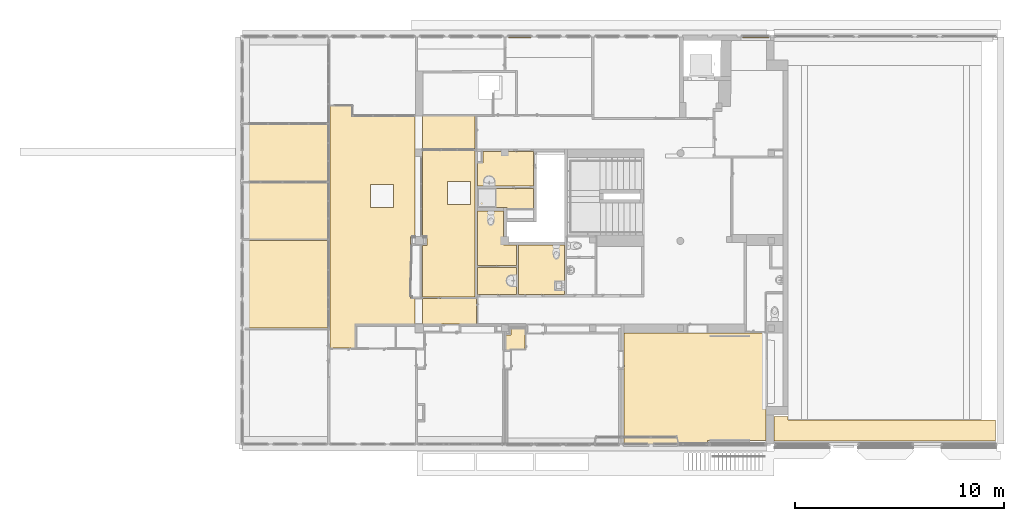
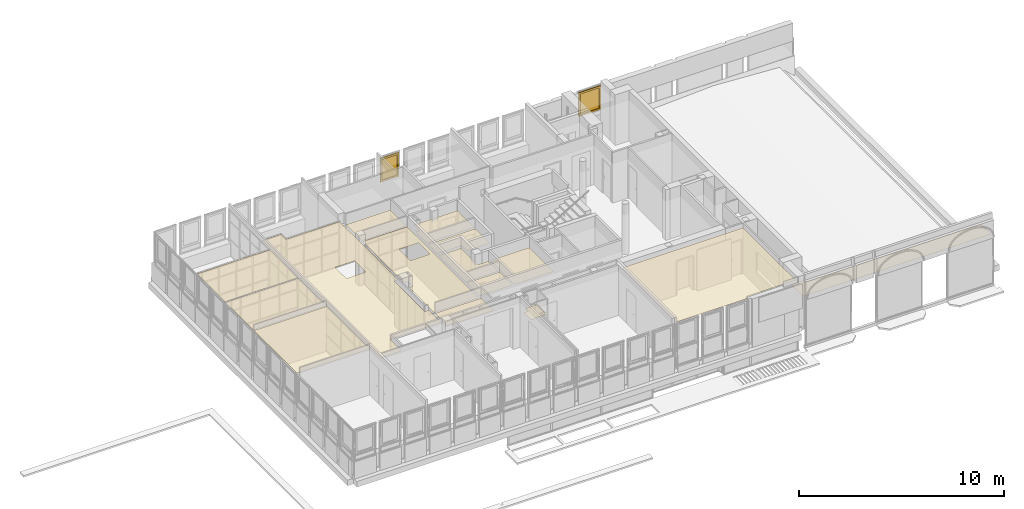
# One storey, part 93 of 97: 15 coverings, 2 windows, 2 elements without a shape of their own.
"""IFC4 building model written with IfcOpenShell, lengths in metres."""

from ifc_helpers import new_model, entity, si_unit, converted_unit, derived_unit, direction, frame, origin, place, context, subcontext, project, spatial, polygons, source, transform, mapped, material, material_list, layer, layer_set, constituent, constituent_set, type_object, type_shapes, element, aggregate, save


model = new_model("IFC4")

# Units and contexts
model_context = context("Model", 3, precision=1e-05, world=origin(), true_north=direction((6.12303176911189e-17, 1.0)))
body_context = subcontext(model_context, "Body", "Model", "MODEL_VIEW")
ifc_project = project(units=[si_unit("LENGTHUNIT", "METRE"), si_unit("AREAUNIT", "SQUARE_METRE"), si_unit("VOLUMEUNIT", "CUBIC_METRE"), converted_unit("PLANEANGLEUNIT", "DEGREE", entity("IfcRatioMeasure", 0.0174532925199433), si_unit("PLANEANGLEUNIT", "RADIAN"), dimensions=[0, 0, 0, 0, 0, 0, 0]), si_unit("MASSUNIT", "GRAM", prefix="KILO"), derived_unit("MASSDENSITYUNIT", [(si_unit("MASSUNIT", "GRAM", prefix="KILO"), 1), (si_unit("LENGTHUNIT", "METRE"), -3)]), derived_unit("MOMENTOFINERTIAUNIT", [(si_unit("LENGTHUNIT", "METRE"), 4)]), si_unit("TIMEUNIT", "SECOND"), si_unit("FREQUENCYUNIT", "HERTZ"), si_unit("THERMODYNAMICTEMPERATUREUNIT", "DEGREE_CELSIUS"), derived_unit("THERMALTRANSMITTANCEUNIT", [(si_unit("MASSUNIT", "GRAM", prefix="KILO"), 1), (si_unit("THERMODYNAMICTEMPERATUREUNIT", "KELVIN"), -1), (si_unit("TIMEUNIT", "SECOND"), -3)]), derived_unit("VOLUMETRICFLOWRATEUNIT", [(si_unit("LENGTHUNIT", "METRE"), 3), (si_unit("TIMEUNIT", "SECOND"), -1)]), si_unit("ELECTRICCURRENTUNIT", "AMPERE"), si_unit("ELECTRICVOLTAGEUNIT", "VOLT"), si_unit("POWERUNIT", "WATT"), si_unit("FORCEUNIT", "NEWTON", prefix="KILO"), si_unit("ILLUMINANCEUNIT", "LUX"), si_unit("LUMINOUSFLUXUNIT", "LUMEN"), si_unit("LUMINOUSINTENSITYUNIT", "CANDELA"), derived_unit("USERDEFINED", [(si_unit("MASSUNIT", "GRAM", prefix="KILO"), -1), (si_unit("LENGTHUNIT", "METRE"), -2), (si_unit("TIMEUNIT", "SECOND"), 3), (si_unit("LUMINOUSFLUXUNIT", "LUMEN"), 1)]), derived_unit("LINEARVELOCITYUNIT", [(si_unit("LENGTHUNIT", "METRE"), 1), (si_unit("TIMEUNIT", "SECOND"), -1)]), si_unit("PRESSUREUNIT", "PASCAL"), derived_unit("USERDEFINED", [(si_unit("LENGTHUNIT", "METRE"), -2), (si_unit("MASSUNIT", "GRAM", prefix="KILO"), 1), (si_unit("TIMEUNIT", "SECOND"), -2)]), derived_unit("LINEARFORCEUNIT", [(si_unit("MASSUNIT", "GRAM", prefix="KILO"), 1), (si_unit("LENGTHUNIT", "METRE"), 1), (si_unit("TIMEUNIT", "SECOND"), -2), (si_unit("LENGTHUNIT", "METRE"), -1)]), derived_unit("PLANARFORCEUNIT", [(si_unit("MASSUNIT", "GRAM", prefix="KILO"), 1), (si_unit("LENGTHUNIT", "METRE"), 1), (si_unit("TIMEUNIT", "SECOND"), -2), (si_unit("LENGTHUNIT", "METRE"), -2)])], contexts=[model_context])

# Site, building, storey
site_placement = place(None, origin())
site = spatial("IfcSite", under=ifc_project, at=site_placement, Name="Default", CompositionType="ELEMENT")
building_placement = place(site_placement, origin())
building = spatial("IfcBuilding", under=site, at=building_placement, Name="HOTEL CONSULAIRE BOULOGNE SUR MER", CompositionType="ELEMENT")
storey_placement = place(building_placement, frame((0.0, 0.0, 3.62152697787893)))
storey = spatial("IfcBuildingStorey", under=building, at=storey_placement, Name="Niveau 1", CompositionType="ELEMENT", Elevation=3.62152697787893)

# Curtain wall, window
curtain_wall_type = type_object("IfcCurtainWallType", Name="Mur-rideau:Simple panneau", PredefinedType="NOTDEFINED")
curtain_wall_1_placement = place(storey_placement, frame((0.0, 0.0, -3.62152697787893)))
curtain_wall_1 = element("IfcCurtainWall", 1, at=curtain_wall_1_placement, inside=storey, type_object=curtain_wall_type, Name="Mur-rideau:Simple panneau", ObjectType="Mur-rideau:Simple panneau", PredefinedType="NOTDEFINED")
ifc_material_1 = material(Name="PVC - Blanc", Category="Plastique")
ifc_constituent_1 = constituent(ifc_material_1, Name="PVC - Blanc", Category="Matériaux")
ifc_material_2 = material(Name="Fenêtre - Vitrage", Category="Verre")
ifc_constituent_2 = constituent(ifc_material_2, Name="Fenêtre - Vitrage", Category="Matériaux")
ifc_constituent_set_1 = constituent_set(constituents=[ifc_constituent_1, ifc_constituent_2], Name="MaterialConstituentSet")
ifc_material_list_1 = material_list([ifc_material_1, ifc_material_1])
window_type_1 = type_object("IfcWindowType", Name="MR 1 Vantail:MR 1 Vantail", PartitioningType="NOTDEFINED", PredefinedType="WINDOW", material=ifc_material_list_1)
shared_shape_1 = source(origin(), body_context, "Body", "Tessellation", [
    polygons([(-0.459321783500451, -0.0492408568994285, 0.472033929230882), (-0.448029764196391, -0.0492408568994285, 0.472033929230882), (-0.446641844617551, -0.0492408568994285, 0.470646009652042), (-0.446641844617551, -0.0492408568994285, 0.459332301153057), (-0.448008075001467, -0.0492408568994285, 0.457966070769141), (-0.459343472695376, -0.0492408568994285, 0.457966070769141), (-0.460709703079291, -0.0492408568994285, 0.459332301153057), (-0.460709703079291, -0.0492408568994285, 0.470646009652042), (-0.460709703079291, -0.0615795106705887, 0.470646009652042), (-0.459321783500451, -0.0621544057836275, 0.472033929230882), (-0.460709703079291, -0.0568932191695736, 0.459332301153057), (-0.460709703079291, -0.063573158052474, 0.452652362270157), (-0.460709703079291, -0.0635731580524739, 0.370000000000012), (-0.460709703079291, -0.0748868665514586, 0.370000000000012), (-0.460709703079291, -0.0748868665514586, 0.457338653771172), (-0.459343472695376, -0.0563273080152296, 0.457966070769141), (-0.448008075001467, -0.0563273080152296, 0.457966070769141), (-0.446641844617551, -0.0568932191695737, 0.459332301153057), (-0.446641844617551, -0.0615795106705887, 0.470646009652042), (-0.446641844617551, -0.0748868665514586, 0.457338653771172), (-0.446641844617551, -0.0748868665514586, 0.370000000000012), (-0.446641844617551, -0.0635731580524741, 0.370000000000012), (-0.446641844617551, -0.0635731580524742, 0.452652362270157), (-0.448029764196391, -0.0621544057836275, 0.472033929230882), (-0.459321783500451, -0.0762747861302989, 0.457913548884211), (-0.459343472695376, -0.0622069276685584, 0.452086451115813), (-0.448008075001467, -0.0622069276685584, 0.452086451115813), (-0.448029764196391, -0.0762747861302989, 0.457913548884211), (-0.459321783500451, -0.0762747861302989, 0.370000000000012), (-0.459343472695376, -0.0622069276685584, 0.370000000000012), (-0.448008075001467, -0.0622069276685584, 0.370000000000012), (-0.448029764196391, -0.0762747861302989, 0.370000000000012)], [[[6, 7, 8, 1, 2, 3, 4, 5]], [[30, 26, 27, 31]], [[9, 10, 1, 8]], [[11, 12, 13, 14, 15, 9, 8, 7]], [[16, 11, 7, 6]], [[16, 6, 5, 17]], [[31, 22, 21, 32, 29, 14, 13, 30]], [[17, 5, 4, 18]], [[3, 19, 20, 21, 22, 23, 18, 4]], [[19, 3, 2, 24]], [[24, 2, 1, 10]], [[15, 25, 10, 9]], [[26, 12, 11, 16]], [[27, 26, 16, 17]], [[27, 17, 18, 23]], [[20, 19, 24, 28]], [[28, 24, 10, 25]], [[29, 25, 15, 14]], [[13, 12, 26, 30]], [[22, 31, 27, 23]], [[32, 21, 20, 28]], [[32, 28, 25, 29]]], closed=True),
    polygons([(-0.460675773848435, -0.0432408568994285, 0.490000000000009), (-0.44667577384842, -0.0432408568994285, 0.490000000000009), (-0.44167577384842, -0.0432408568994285, 0.48500000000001), (-0.44167577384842, -0.0432408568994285, 0.414999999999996), (-0.446675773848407, -0.0432408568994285, 0.410000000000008), (-0.460675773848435, -0.0432408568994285, 0.410000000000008), (-0.465675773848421, -0.0432408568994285, 0.414999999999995), (-0.465675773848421, -0.0432408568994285, 0.48500000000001), (-0.460675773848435, -0.0492408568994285, 0.490000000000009), (-0.465675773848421, -0.0492408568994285, 0.48500000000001), (-0.465675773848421, -0.0492408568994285, 0.414999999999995), (-0.460675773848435, -0.0492408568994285, 0.410000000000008), (-0.446675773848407, -0.0492408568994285, 0.410000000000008), (-0.44167577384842, -0.0492408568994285, 0.414999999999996), (-0.44167577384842, -0.0492408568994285, 0.48500000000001), (-0.44667577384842, -0.0492408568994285, 0.490000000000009)], [[[2, 3, 4, 5, 6, 7, 8, 1]], [[13, 14, 15, 16, 9, 10, 11, 12]], [[9, 1, 8, 10]], [[10, 8, 7, 11]], [[11, 7, 6, 12]], [[12, 6, 5, 13]], [[13, 5, 4, 14]], [[15, 14, 4, 3]], [[15, 3, 2, 16]], [[16, 2, 1, 9]]], closed=True),
    polygons([(0.428675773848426, -0.0192408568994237, 1.32586048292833), (-0.428675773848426, -0.0192408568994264, 1.32586048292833), (-0.428675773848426, -0.0192408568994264, 0.1), (0.428675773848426, -0.0192408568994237, 0.1), (0.428675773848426, -0.00724085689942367, 1.32586048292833), (0.428675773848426, -0.00724085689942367, 0.1), (-0.428675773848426, -0.00724085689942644, 0.1), (-0.428675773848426, -0.00724085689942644, 1.32586048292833)], [[[4, 1, 2, 3]], [[7, 8, 5, 6]], [[2, 1, 5, 8]], [[3, 2, 8, 7]], [[4, 3, 7, 6]], [[1, 4, 6, 5]]], closed=True),
    polygons([(-0.478675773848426, 0.0167591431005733, 1.37586048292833), (-0.478675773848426, -0.043240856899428, 1.37586048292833), (0.478675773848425, -0.043240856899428, 1.37586048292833), (0.478675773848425, 0.0167591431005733, 1.37586048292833), (-0.428675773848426, -0.043240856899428, 1.32586048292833), (-0.428675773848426, 0.0167591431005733, 1.32586048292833), (0.428675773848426, 0.0167591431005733, 1.32586048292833), (0.428675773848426, -0.043240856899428, 1.32586048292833), (0.478675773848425, -0.043240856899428, 0.0500000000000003), (0.478675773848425, 0.0167591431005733, 0.0500000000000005), (0.428675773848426, 0.0167591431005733, 0.1), (0.428675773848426, -0.043240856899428, 0.1), (-0.478675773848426, -0.043240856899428, 0.0500000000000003), (-0.478675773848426, 0.0167591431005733, 0.0500000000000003), (-0.428675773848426, 0.0167591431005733, 0.1), (-0.428675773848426, -0.043240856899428, 0.1)], [[[1, 2, 3, 4]], [[12, 11, 15, 16]], [[5, 6, 7, 8]], [[10, 9, 13, 14]], [[4, 3, 9, 10]], [[16, 15, 6, 5]], [[8, 7, 11, 12]], [[14, 13, 2, 1]], [[9, 3, 2, 13], [16, 5, 8, 12]], [[14, 1, 4, 10], [11, 7, 6, 15]]], closed=True),
    polygons([(-0.468675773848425, 0.016759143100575, 1.36586048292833), (-0.468675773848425, 0.0267591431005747, 1.36586048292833), (0.468675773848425, 0.0267591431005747, 1.36586048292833), (0.468675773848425, 0.016759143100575, 1.36586048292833), (-0.478675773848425, -0.0432408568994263, 1.37586048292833), (-0.478675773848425, 0.016759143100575, 1.37586048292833), (0.478675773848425, 0.016759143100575, 1.37586048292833), (0.478675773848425, -0.0432408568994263, 1.37586048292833), (-0.528675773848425, 0.0267591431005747, 1.42586048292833), (-0.528675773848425, -0.0432408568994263, 1.42586048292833), (0.528675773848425, -0.0432408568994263, 1.42586048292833), (0.528675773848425, 0.0267591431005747, 1.42586048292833), (0.468675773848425, 0.0267591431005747, 0.0600000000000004), (0.468675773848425, 0.016759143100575, 0.0600000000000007), (0.478675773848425, 0.016759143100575, 0.0500000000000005), (0.478675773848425, -0.0432408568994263, 0.0500000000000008), (0.528675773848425, -0.0432408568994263, 5.41433564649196e-16), (0.528675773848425, 0.0267591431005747, 5.41433564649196e-16), (-0.468675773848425, 0.0267591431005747, 0.0600000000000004), (-0.468675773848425, 0.016759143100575, 0.0600000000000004), (-0.478675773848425, 0.016759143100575, 0.0500000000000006), (-0.478675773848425, -0.0432408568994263, 0.0500000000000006), (-0.528675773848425, -0.0432408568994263, 5.41433564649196e-16), (-0.528675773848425, 0.0267591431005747, 5.41433564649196e-16)], [[[1, 2, 3, 4]], [[5, 6, 7, 8]], [[18, 17, 23, 24]], [[9, 10, 11, 12]], [[14, 13, 19, 20]], [[16, 15, 21, 22]], [[4, 3, 13, 14]], [[8, 7, 15, 16]], [[24, 23, 10, 9]], [[12, 11, 17, 18]], [[20, 19, 2, 1]], [[22, 21, 6, 5]], [[24, 9, 12, 18], [13, 3, 2, 19]], [[15, 7, 6, 21], [20, 1, 4, 14]], [[17, 11, 10, 23], [22, 5, 8, 16]]], closed=True),
])
type_shapes(window_type_1, [shared_shape_1])
window_1_placement = place(curtain_wall_1_placement, frame((-0.521097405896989, -10.0746323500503, 4.79613951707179)))
window_1 = element("IfcWindow", 2, at=window_1_placement, type_object=window_type_1, material=ifc_constituent_set_1, Name="MR 1 Vantail:MR 1 Vantail", ObjectType="MR 1 Vantail:MR 1 Vantail", OverallHeight=1.42586048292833, OverallWidth=1.05735154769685, PartitioningType="NOTDEFINED", PredefinedType="WINDOW", context=body_context, shape_type="MappedRepresentation", body=[
    mapped(shared_shape_1, transform((0.0, 0.0, 0.0), scale=1.0)),
])
aggregate(curtain_wall_1, [window_1])

curtain_wall_2_placement = place(storey_placement, frame((0.0, 0.0, -3.62152697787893)))
curtain_wall_2 = element("IfcCurtainWall", 3, at=curtain_wall_2_placement, inside=storey, type_object=curtain_wall_type, Name="Mur-rideau:Simple panneau", ObjectType="Mur-rideau:Simple panneau", PredefinedType="NOTDEFINED")
ifc_constituent_3 = constituent(ifc_material_1, Name="PVC - Blanc", Category="Matériaux")
ifc_constituent_4 = constituent(ifc_material_2, Name="Fenêtre - Vitrage", Category="Matériaux")
ifc_constituent_set_2 = constituent_set(constituents=[ifc_constituent_3, ifc_constituent_4], Name="MaterialConstituentSet")
ifc_material_list_2 = material_list([ifc_material_1, ifc_material_1])
window_type_2 = type_object("IfcWindowType", Name="MR 1 Vantail:MR 1 Vantail", PartitioningType="NOTDEFINED", PredefinedType="WINDOW", material=ifc_material_list_2)
shared_shape_2 = source(origin(), body_context, "Body", "Tessellation", [
    polygons([(-0.55859576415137, -0.0492408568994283, 0.472033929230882), (-0.54730374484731, -0.0492408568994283, 0.472033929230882), (-0.54591582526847, -0.0492408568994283, 0.470646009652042), (-0.54591582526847, -0.0492408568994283, 0.459332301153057), (-0.547282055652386, -0.0492408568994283, 0.457966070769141), (-0.558617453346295, -0.0492408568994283, 0.457966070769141), (-0.55998368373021, -0.0492408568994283, 0.459332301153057), (-0.55998368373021, -0.0492408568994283, 0.470646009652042), (-0.55998368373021, -0.0615795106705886, 0.470646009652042), (-0.55859576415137, -0.0621544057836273, 0.472033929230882), (-0.55998368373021, -0.0568932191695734, 0.459332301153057), (-0.55998368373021, -0.0635731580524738, 0.452652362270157), (-0.55998368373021, -0.0635731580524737, 0.370000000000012), (-0.55998368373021, -0.0748868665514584, 0.370000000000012), (-0.55998368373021, -0.0748868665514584, 0.457338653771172), (-0.558617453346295, -0.0563273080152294, 0.457966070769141), (-0.547282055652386, -0.0563273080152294, 0.457966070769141), (-0.54591582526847, -0.0568932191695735, 0.459332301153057), (-0.54591582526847, -0.0615795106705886, 0.470646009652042), (-0.54591582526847, -0.0748868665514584, 0.457338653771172), (-0.54591582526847, -0.0748868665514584, 0.370000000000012), (-0.54591582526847, -0.063573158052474, 0.370000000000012), (-0.54591582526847, -0.0635731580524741, 0.452652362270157), (-0.54730374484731, -0.0621544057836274, 0.472033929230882), (-0.55859576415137, -0.0762747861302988, 0.457913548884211), (-0.558617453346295, -0.0622069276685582, 0.452086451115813), (-0.547282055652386, -0.0622069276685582, 0.452086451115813), (-0.54730374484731, -0.0762747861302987, 0.457913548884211), (-0.55859576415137, -0.0762747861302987, 0.370000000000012), (-0.558617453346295, -0.0622069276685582, 0.370000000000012), (-0.547282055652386, -0.0622069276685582, 0.370000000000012), (-0.54730374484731, -0.0762747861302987, 0.370000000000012)], [[[6, 7, 8, 1, 2, 3, 4, 5]], [[30, 26, 27, 31]], [[9, 10, 1, 8]], [[11, 12, 13, 14, 15, 9, 8, 7]], [[16, 11, 7, 6]], [[16, 6, 5, 17]], [[31, 22, 21, 32, 29, 14, 13, 30]], [[17, 5, 4, 18]], [[3, 19, 20, 21, 22, 23, 18, 4]], [[19, 3, 2, 24]], [[24, 2, 1, 10]], [[15, 25, 10, 9]], [[26, 12, 11, 16]], [[27, 26, 16, 17]], [[27, 17, 18, 23]], [[20, 19, 24, 28]], [[28, 24, 10, 25]], [[29, 25, 15, 14]], [[13, 12, 26, 30]], [[22, 31, 27, 23]], [[32, 21, 20, 28]], [[32, 28, 25, 29]]], closed=True),
    polygons([(-0.559949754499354, -0.0432408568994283, 0.490000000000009), (-0.545949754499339, -0.0432408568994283, 0.490000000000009), (-0.540949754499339, -0.0432408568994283, 0.48500000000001), (-0.540949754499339, -0.0432408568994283, 0.414999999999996), (-0.545949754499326, -0.0432408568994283, 0.410000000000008), (-0.559949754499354, -0.0432408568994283, 0.410000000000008), (-0.56494975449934, -0.0432408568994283, 0.414999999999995), (-0.56494975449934, -0.0432408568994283, 0.48500000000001), (-0.559949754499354, -0.0492408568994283, 0.490000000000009), (-0.56494975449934, -0.0492408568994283, 0.48500000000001), (-0.56494975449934, -0.0492408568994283, 0.414999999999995), (-0.559949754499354, -0.0492408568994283, 0.410000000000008), (-0.545949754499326, -0.0492408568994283, 0.410000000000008), (-0.540949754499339, -0.0492408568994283, 0.414999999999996), (-0.540949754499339, -0.0492408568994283, 0.48500000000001), (-0.545949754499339, -0.0492408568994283, 0.490000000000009)], [[[2, 3, 4, 5, 6, 7, 8, 1]], [[13, 14, 15, 16, 9, 10, 11, 12]], [[9, 1, 8, 10]], [[10, 8, 7, 11]], [[11, 7, 6, 12]], [[12, 6, 5, 13]], [[13, 5, 4, 14]], [[15, 14, 4, 3]], [[15, 3, 2, 16]], [[16, 2, 1, 9]]], closed=True),
    polygons([(0.527949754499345, -0.0192408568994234, 1.32586048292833), (-0.527949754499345, -0.0192408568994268, 1.32586048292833), (-0.527949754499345, -0.0192408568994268, 0.1), (0.527949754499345, -0.0192408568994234, 0.1), (0.527949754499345, -0.00724085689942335, 1.32586048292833), (0.527949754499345, -0.00724085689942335, 0.1), (-0.527949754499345, -0.00724085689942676, 0.1), (-0.527949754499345, -0.00724085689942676, 1.32586048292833)], [[[4, 1, 2, 3]], [[7, 8, 5, 6]], [[2, 1, 5, 8]], [[3, 2, 8, 7]], [[4, 3, 7, 6]], [[1, 4, 6, 5]]], closed=True),
    polygons([(-0.577949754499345, 0.0167591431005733, 1.37586048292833), (-0.577949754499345, -0.043240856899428, 1.37586048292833), (0.577949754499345, -0.043240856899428, 1.37586048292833), (0.577949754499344, 0.0167591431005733, 1.37586048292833), (-0.527949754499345, -0.043240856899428, 1.32586048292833), (-0.527949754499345, 0.0167591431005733, 1.32586048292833), (0.527949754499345, 0.0167591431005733, 1.32586048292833), (0.527949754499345, -0.043240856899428, 1.32586048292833), (0.577949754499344, -0.043240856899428, 0.0500000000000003), (0.577949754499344, 0.0167591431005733, 0.0500000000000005), (0.527949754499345, 0.0167591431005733, 0.1), (0.527949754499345, -0.043240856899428, 0.1), (-0.577949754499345, -0.043240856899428, 0.0500000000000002), (-0.577949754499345, 0.0167591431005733, 0.0500000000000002), (-0.527949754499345, 0.0167591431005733, 0.1), (-0.527949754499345, -0.043240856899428, 0.1)], [[[1, 2, 3, 4]], [[12, 11, 15, 16]], [[5, 6, 7, 8]], [[10, 9, 13, 14]], [[4, 3, 9, 10]], [[16, 15, 6, 5]], [[8, 7, 11, 12]], [[14, 13, 2, 1]], [[9, 3, 2, 13], [16, 5, 8, 12]], [[14, 1, 4, 10], [11, 7, 6, 15]]], closed=True),
    polygons([(-0.567949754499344, 0.016759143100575, 1.36586048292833), (-0.567949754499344, 0.0267591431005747, 1.36586048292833), (0.567949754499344, 0.0267591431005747, 1.36586048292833), (0.567949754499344, 0.016759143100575, 1.36586048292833), (-0.577949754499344, -0.0432408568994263, 1.37586048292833), (-0.577949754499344, 0.016759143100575, 1.37586048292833), (0.577949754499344, 0.016759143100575, 1.37586048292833), (0.577949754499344, -0.0432408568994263, 1.37586048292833), (-0.627949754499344, 0.0267591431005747, 1.42586048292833), (-0.627949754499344, -0.0432408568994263, 1.42586048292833), (0.627949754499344, -0.0432408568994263, 1.42586048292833), (0.627949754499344, 0.0267591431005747, 1.42586048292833), (0.567949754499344, 0.0267591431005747, 0.0600000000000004), (0.567949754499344, 0.016759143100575, 0.0600000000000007), (0.577949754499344, 0.016759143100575, 0.0500000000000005), (0.577949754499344, -0.0432408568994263, 0.0500000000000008), (0.627949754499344, -0.0432408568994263, 5.41433564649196e-16), (0.627949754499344, 0.0267591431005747, 5.41433564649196e-16), (-0.567949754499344, 0.0267591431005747, 0.0600000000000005), (-0.567949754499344, 0.016759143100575, 0.0600000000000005), (-0.577949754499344, 0.016759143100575, 0.0500000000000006), (-0.577949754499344, -0.0432408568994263, 0.0500000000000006), (-0.627949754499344, -0.0432408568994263, 5.41433564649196e-16), (-0.627949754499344, 0.0267591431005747, 5.41433564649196e-16)], [[[1, 2, 3, 4]], [[5, 6, 7, 8]], [[18, 17, 23, 24]], [[9, 10, 11, 12]], [[14, 13, 19, 20]], [[16, 15, 21, 22]], [[4, 3, 13, 14]], [[8, 7, 15, 16]], [[24, 23, 10, 9]], [[12, 11, 17, 18]], [[20, 19, 2, 1]], [[22, 21, 6, 5]], [[24, 9, 12, 18], [13, 3, 2, 19]], [[15, 7, 6, 21], [20, 1, 4, 14]], [[17, 11, 10, 23], [22, 5, 8, 16]]], closed=True),
])
type_shapes(window_type_2, [shared_shape_2])
window_2_placement = place(curtain_wall_2_placement, frame((10.7755281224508, -10.0746323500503, 4.79613951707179)))
window_2 = element("IfcWindow", 4, at=window_2_placement, type_object=window_type_2, material=ifc_constituent_set_2, Name="MR 1 Vantail:MR 1 Vantail", ObjectType="MR 1 Vantail:MR 1 Vantail", OverallHeight=1.42586048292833, OverallWidth=1.25589950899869, PartitioningType="NOTDEFINED", PredefinedType="WINDOW", context=body_context, shape_type="MappedRepresentation", body=[
    mapped(shared_shape_2, transform((0.0, 0.0, 0.0), scale=1.0)),
])
aggregate(curtain_wall_2, [window_2])

# Coverings
ifc_material_3 = material(Name="Faux-plafond - Trame 600 x 600", Category="Divers")
ifc_layer = layer(ifc_material_3, 0.0, Name="Faux-plafond - Trame 600 x 600", Category="Divers")
ifc_layer_set = layer_set([ifc_layer], Name="Plafond de base:Plafond 600 mm x 1200 mm")
covering_type_1 = type_object("IfcCoveringType", Name="Plafond de base:Plafond 600 mm x 1200 mm", PredefinedType="CEILING")
covering_1_placement = place(storey_placement, frame((-13.7870998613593, -24.0092596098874, 2.6751)))
element("IfcCovering", 5, at=covering_1_placement, inside=storey, type_object=covering_type_1, material=ifc_layer_set, Name="Plafond de base:Plafond 600 mm x 1200 mm", ObjectType="Plafond de base:Plafond 600 mm x 1200 mm", PredefinedType="CEILING", context=body_context, shape_type="Tessellation", body=[
    polygons([(4.33146851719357e-15, 2.89780970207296, 0.0), (2.16573425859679e-15, 1.49780970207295, 0.0), (0.0, 1.29944055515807e-14, 0.0), (4.13747521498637, 0.0, 0.0), (4.13747521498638, 4.20192499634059, 0.0), (6.49720277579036e-15, 4.2019249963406, 0.0)], [[[6, 1, 2, 3, 4, 5]]], closed=True),
])
covering_type_2 = type_object("IfcCoveringType", Name="Plafond de base:Plafond 600 mm x 1200 mm", PredefinedType="CEILING")
covering_2_placement = place(storey_placement, frame((-13.7870998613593, -19.7373346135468, 2.6599)))
element("IfcCovering", 6, at=covering_2_placement, inside=storey, type_object=covering_type_2, material=ifc_layer_set, Name="Plafond de base:Plafond 600 mm x 1200 mm", ObjectType="Plafond de base:Plafond 600 mm x 1200 mm", PredefinedType="CEILING", context=body_context, shape_type="Tessellation", body=[
    polygons([(4.13747521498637, 0.0, 0.0), (4.13747521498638, 2.73548875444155, 0.0), (4.33146851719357e-15, 2.73548875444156, 0.0), (2.16573425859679e-15, 1.22588470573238, 0.0), (0.0, 1.73258740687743e-14, 0.0)], [[[4, 5, 1, 2, 3]]], closed=True),
])
covering_type_3 = type_object("IfcCoveringType", Name="Plafond de base:Plafond 600 mm x 1200 mm", PredefinedType="CEILING")
covering_3_placement = place(storey_placement, frame((-2.53052868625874, -18.7546212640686, 2.3636)))
element("IfcCovering", 7, at=covering_3_placement, inside=storey, type_object=covering_type_3, material=ifc_layer_set, Name="Plafond de base:Plafond 600 mm x 1200 mm", ObjectType="Plafond de base:Plafond 600 mm x 1200 mm", PredefinedType="CEILING", context=body_context, shape_type="Tessellation", body=[
    polygons([(2.67216374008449, 1.43683564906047, 0.0), (1.62430069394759e-15, 1.43683564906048, 0.0), (0.0, 0.51163259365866, 0.0), (1.39516374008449, 0.511632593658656, 0.0), (1.39516374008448, 4.33146851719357e-15, 0.0), (2.67216374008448, 0.0, 0.0)], [[[2, 3, 4, 5, 6, 1]]], closed=True),
])
covering_type_4 = type_object("IfcCoveringType", Name="Plafond de base:Plafond 600 mm x 1200 mm", PredefinedType="CEILING")
covering_4_placement = place(storey_placement, frame((-2.53052868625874, -21.0178560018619, 2.357)))
element("IfcCovering", 8, at=covering_4_placement, inside=storey, type_object=covering_type_4, material=ifc_layer_set, Name="Plafond de base:Plafond 600 mm x 1200 mm", ObjectType="Plafond de base:Plafond 600 mm x 1200 mm", PredefinedType="CEILING", context=body_context, shape_type="Tessellation", body=[
    polygons([(1.24516374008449, 0.988022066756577, 0.0), (1.24516374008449, 2.61486733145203, 0.0), (3.79003495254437e-15, 2.61486733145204, 0.0), (0.0, 8.66293703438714e-15, 0.0), (1.85954867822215, 0.0, 0.0), (1.85954867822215, 0.988022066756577, 0.0)], [[[3, 4, 5, 6, 1, 2]]], closed=True),
])
covering_type_5 = type_object("IfcCoveringType", Name="Plafond de base:Plafond 600 mm x 1200 mm", PredefinedType="CEILING")
covering_5_placement = place(storey_placement, frame((-2.53052868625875, -22.3950276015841, 2.364)))
element("IfcCovering", 9, at=covering_5_placement, inside=storey, type_object=covering_type_5, material=ifc_layer_set, Name="Plafond de base:Plafond 600 mm x 1200 mm", ObjectType="Plafond de base:Plafond 600 mm x 1200 mm", PredefinedType="CEILING", context=body_context, shape_type="Tessellation", body=[
    polygons([(1.85954867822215, 1.28717159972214, 0.0), (2.70716782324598e-15, 1.28717159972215, 0.0), (0.0, 4.33146851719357e-15, 0.0), (1.85954867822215, 0.0, 0.0)], [[[2, 3, 4, 1]]], closed=True),
])
covering_type_6 = type_object("IfcCoveringType", Name="Plafond de base:Plafond 600 mm x 1200 mm", PredefinedType="CEILING")
covering_6_placement = place(storey_placement, frame((-0.570980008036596, -22.3950276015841, 2.3625)))
element("IfcCovering", 10, at=covering_6_placement, inside=storey, type_object=covering_type_6, material=ifc_layer_set, Name="Plafond de base:Plafond 600 mm x 1200 mm", ObjectType="Plafond de base:Plafond 600 mm x 1200 mm", PredefinedType="CEILING", context=body_context, shape_type="Tessellation", body=[
    polygons([(3.79003495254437e-15, 2.36519366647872, 0.0), (0.0, 4.33146851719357e-15, 0.0), (2.19845132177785, 0.0, 0.0), (2.19845132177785, 2.36519366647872, 0.0)], [[[1, 2, 3, 4]]], closed=True),
])
covering_type_7 = type_object("IfcCoveringType", Name="Plafond de base:Plafond 600 mm x 1200 mm", PredefinedType="CEILING")
covering_7_placement = place(storey_placement, frame((4.45858002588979, -29.5640671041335, 2.7255)))
element("IfcCovering", 11, at=covering_7_placement, inside=storey, type_object=covering_type_7, material=ifc_layer_set, Name="Plafond de base:Plafond 600 mm x 1200 mm", ObjectType="Plafond de base:Plafond 600 mm x 1200 mm", PredefinedType="CEILING", context=body_context, shape_type="Tessellation", body=[
    polygons([(8.66293703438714e-15, 5.32130596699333, 0.0), (0.0, 0.0, 0.0), (4.0, 0.0, 0.0), (4.0, 0.165715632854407, 0.0), (6.8010242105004, 0.165715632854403, 0.0), (6.80102421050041, 5.32130596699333, 0.0)], [[[1, 2, 3, 4, 5, 6]]], closed=True),
])
covering_type_8 = type_object("IfcCoveringType", Name="Plafond de base:Plafond 600 mm x 1200 mm", PredefinedType="CEILING")
covering_8_placement = place(storey_placement, frame((-1.17414453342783, -25.0514007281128, 2.0693)))
element("IfcCovering", 12, at=covering_8_placement, inside=storey, type_object=covering_type_8, material=ifc_layer_set, Name="Plafond de base:Plafond 600 mm x 1200 mm", ObjectType="Plafond de base:Plafond 600 mm x 1200 mm", PredefinedType="CEILING", context=body_context, shape_type="Tessellation", body=[
    polygons([(0.896710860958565, 0.0457092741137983, 0.0), (0.896710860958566, 0.986673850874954, 0.0), (0.233654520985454, 0.986673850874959, 0.0), (0.233654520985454, 0.716520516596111, 0.0), (1.08286712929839e-15, 0.716520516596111, 0.0), (0.0, 0.0, 0.0), (0.217, 0.0, 0.0), (0.252, 0.0457092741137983, 0.0)], [[[5, 6, 7, 8, 1, 2, 3, 4]]], closed=True),
])
covering_type_9 = type_object("IfcCoveringType", Name="Plafond de base:Plafond 600 mm x 1200 mm", PredefinedType="CEILING")
covering_9_placement = place(storey_placement, frame((-5.17252868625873, -15.4428590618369, 2.37021454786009)))
element("IfcCovering", 13, at=covering_9_placement, inside=storey, type_object=covering_type_9, material=ifc_layer_set, Name="Plafond de base:Plafond 600 mm x 1200 mm", ObjectType="Plafond de base:Plafond 600 mm x 1200 mm", PredefinedType="CEILING", context=body_context, shape_type="Tessellation", body=[
    polygons([(0.0, 1.57194489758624, 0.0), (0.0, 8.66293703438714e-15, 0.0), (2.512, 0.0, 0.0), (2.512, 1.57194489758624, 0.0)], [[[1, 2, 3, 4]]], closed=True),
])
covering_type_10 = type_object("IfcCoveringType", Name="Plafond de base:Plafond 600 mm x 1200 mm", PredefinedType="CEILING")
covering_10_placement = place(storey_placement, frame((-9.60462464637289, -24.953647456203, 2.69021454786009)))
element("IfcCovering", 14, at=covering_10_placement, inside=storey, type_object=covering_type_10, material=ifc_layer_set, Name="Plafond de base:Plafond 600 mm x 1200 mm", ObjectType="Plafond de base:Plafond 600 mm x 1200 mm", PredefinedType="CEILING", context=body_context, shape_type="Tessellation", body=[
    polygons([(0.0, 4.33146851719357e-15, 0.0), (1.19148737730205, 0.0, 0.0), (1.19148737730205, 1.13895600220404, 0.0), (4.07209596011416, 1.13895600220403, 0.0), (4.07209596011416, 2.35861985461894, 0.0), (3.85909596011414, 2.35861985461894, 0.0), (3.85909596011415, 5.33661985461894, 0.0), (4.07209596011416, 5.33661985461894, 0.0), (4.07209596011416, 11.0777332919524, 0.0), (1.05565723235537, 11.0777332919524, 0.0), (1.05565723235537, 11.5690965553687, 0.0), (1.84087411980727e-14, 11.5690965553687, 0.0), (1.94363607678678, 6.70806321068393, 0.0), (1.94363607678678, 7.80806321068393, 0.0), (3.04363607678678, 7.80806321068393, 0.0), (3.04363607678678, 6.70806321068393, 0.0)], [[[1, 2, 3, 4, 5, 6, 7, 8, 9, 10, 11, 12], [13, 14, 15, 16]]], closed=True),
])
covering_type_11 = type_object("IfcCoveringType", Name="Plafond de base:Plafond 600 mm x 1200 mm", PredefinedType="CEILING")
covering_11_placement = place(storey_placement, frame((-13.7870998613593, -17.0018458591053, 2.68539271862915)))
element("IfcCovering", 15, at=covering_11_placement, inside=storey, type_object=covering_type_11, material=ifc_layer_set, Name="Plafond de base:Plafond 600 mm x 1200 mm", ObjectType="Plafond de base:Plafond 600 mm x 1200 mm", PredefinedType="CEILING", context=body_context, shape_type="Tessellation", body=[
    polygons([(0.0, 1.08286712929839e-14, 0.0), (4.13747521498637, 0.0, 0.0), (4.13747521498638, 2.75439595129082, 0.0), (4.33146851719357e-15, 2.75439595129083, 0.0), (2.16573425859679e-15, 1.29039595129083, 0.0)], [[[5, 1, 2, 3, 4]]], closed=True),
])
covering_type_12 = type_object("IfcCoveringType", Name="Plafond de base:Plafond 600 mm x 1200 mm", PredefinedType="CEILING")
covering_12_placement = place(storey_placement, frame((-2.53052868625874, -17.2177856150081, 2.37282876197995)))
element("IfcCovering", 16, at=covering_12_placement, inside=storey, type_object=covering_type_12, material=ifc_layer_set, Name="Plafond de base:Plafond 600 mm x 1200 mm", ObjectType="Plafond de base:Plafond 600 mm x 1200 mm", PredefinedType="CEILING", context=body_context, shape_type="Tessellation", body=[
    polygons([(0.24479076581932, 1.66254357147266, 0.0), (0.244790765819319, 1.10812679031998, 0.0), (1.62430069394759e-15, 1.10812679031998, 0.0), (0.0, 6.49720277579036e-15, 0.0), (2.67216374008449, -2.16573425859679e-15, 0.0), (2.67216374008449, 1.66254357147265, 0.0)], [[[2, 3, 4, 5, 6, 1]]], closed=True),
])
covering_type_13 = type_object("IfcCoveringType", Name="Plafond de base:Plafond 600 mm x 1200 mm", PredefinedType="CEILING")
covering_13_placement = place(storey_placement, frame((-5.17252868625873, -22.5250276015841, 2.37282876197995)))
element("IfcCovering", 17, at=covering_13_placement, inside=storey, type_object=covering_type_13, material=ifc_layer_set, Name="Plafond de base:Plafond 600 mm x 1200 mm", ObjectType="Plafond de base:Plafond 600 mm x 1200 mm", PredefinedType="CEILING", context=body_context, shape_type="Tessellation", body=[
    polygons([(2.51199999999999, 0.0, 0.0), (2.512, 7.0121685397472, 0.0), (0.0, 7.01216853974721, 0.0), (0.0, 2.90800000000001, 0.0), (0.204671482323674, 2.90800000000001, 0.0), (0.204671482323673, 2.46726807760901, 0.0), (0.0, 2.46726807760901, 0.0), (0.0, 8.66293703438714e-15, 0.0), (2.30282934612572, 4.43012562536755, 0.0), (1.20282934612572, 4.43012562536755, 0.0), (1.20282934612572, 5.53012562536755, 0.0), (2.30282934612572, 5.53012562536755, 0.0)], [[[8, 1, 2, 3, 4, 5, 6, 7], [9, 10, 11, 12]]], closed=True),
])
covering_type_14 = type_object("IfcCoveringType", Name="Plafond de base:Plafond 600 mm x 1200 mm", PredefinedType="CEILING")
covering_14_placement = place(storey_placement, frame((-5.17252868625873, -23.814691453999, 2.37021454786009)))
element("IfcCovering", 18, at=covering_14_placement, inside=storey, type_object=covering_type_14, material=ifc_layer_set, Name="Plafond de base:Plafond 600 mm x 1200 mm", ObjectType="Plafond de base:Plafond 600 mm x 1200 mm", PredefinedType="CEILING", context=body_context, shape_type="Tessellation", body=[
    polygons([(0.0, 1.21966385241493, 0.0), (0.0, 1.29944055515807e-14, 0.0), (2.58339585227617, 4.33146851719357e-15, 0.0), (2.58339585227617, 1.21966385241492, 0.0)], [[[1, 2, 3, 4]]], closed=True),
])
covering_type_15 = type_object("IfcCoveringType", Name="Plafond de base:Plafond 600 mm x 1200 mm", PredefinedType="CEILING")
covering_15_placement = place(storey_placement, frame((11.6596042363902, -29.4240671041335, 1.634)))
element("IfcCovering", 19, at=covering_15_placement, inside=storey, type_object=covering_type_15, material=ifc_layer_set, Name="Plafond de base:Plafond 600 mm x 1200 mm", ObjectType="Plafond de base:Plafond 600 mm x 1200 mm", PredefinedType="CEILING", context=body_context, shape_type="Tessellation", body=[
    polygons([(10.5938736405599, 0.0, 0.0), (10.5938736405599, 1.00895303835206, 0.0), (0.666873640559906, 1.00895303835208, 0.0), (0.666873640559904, 1.17966571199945, 0.0), (2.16573425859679e-15, 1.17966571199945, 0.0), (0.0, 3.46517481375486e-14, 0.0)], [[[4, 5, 6, 1, 2, 3]]], closed=True),
])

save(model, "model.ifc")
